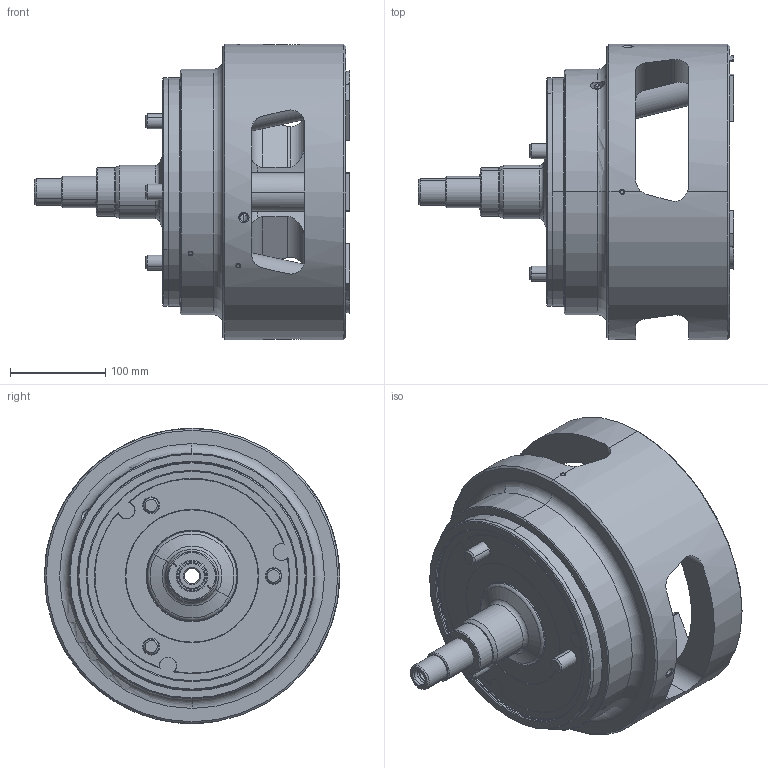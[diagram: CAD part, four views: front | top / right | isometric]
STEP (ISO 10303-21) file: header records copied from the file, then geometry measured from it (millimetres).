
FILE_DESCRIPTION (( 'STEP AP214' ), '1' );
FILE_NAME ('PUD12_CL.STEP', '2019-10-16T07:20:26', ( '' ), ( '' ), 'SwSTEP 2.0', 'SolidWorks 2017', '' );
FILE_SCHEMA (( 'AUTOMOTIVE_DESIGN' ));
Length unit declared in the file: millimetre
Products named in the file (4): Part22^61P278439_dummy; 0030112030; 61P835631; PUD12_CL
Assembly tree (7 placements, depth 2):
  PUD12_CL
    61P835631  x3
    0030112030  x3
    Part22^61P278439_dummy
Bounding box: 331 x 310 x 310 mm (x, y, z)
Volume: 6981219.1 mm3; surface area: 528790.3 mm2
Topology: 9 solids, 9 shells, 2760 faces, 7283 edges, 4725 vertices
Faces by surface type: plane 1470, bspline 774, cone 251, cylinder 211, torus 54
Entity records: 118348 total; most frequent: CARTESIAN_POINT 57299, ORIENTED_EDGE 14038, DIRECTION 9691, EDGE_CURVE 7019, VECTOR 4591, LINE 4591, VERTEX_POINT 4591, EDGE_LOOP 2888
